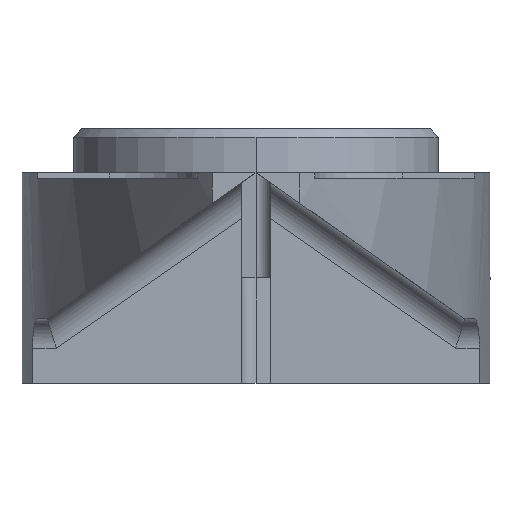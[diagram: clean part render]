
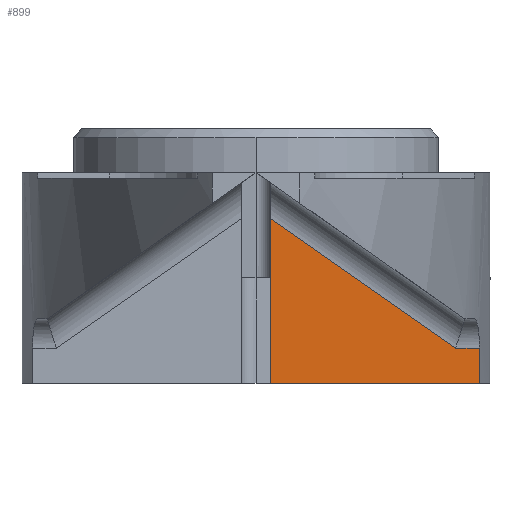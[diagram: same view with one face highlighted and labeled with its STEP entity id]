
A CAD part, left-side view. The second image highlights one B-rep face of the part: STEP entity #899.
In plain terms, the highlighted planar face has unit normal (-1, 0, 0).
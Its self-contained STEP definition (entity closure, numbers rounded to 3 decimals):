
#5 = VERTEX_POINT ( 'NONE', #2324 ) ;
#156 = EDGE_CURVE ( 'NONE', #486, #504, #825, .T. ) ;
#224 = CARTESIAN_POINT ( 'NONE',  ( -19., -7.638, 3.6 ) ) ;
#344 = EDGE_CURVE ( 'NONE', #486, #4200, #3777, .T. ) ;
#358 = DIRECTION ( 'NONE',  ( 0., 1., 0. ) ) ;
#439 = CARTESIAN_POINT ( 'NONE',  ( -19., -4.25, 0. ) ) ;
#440 = DIRECTION ( 'NONE',  ( 0., 0., -1. ) ) ;
#486 = VERTEX_POINT ( 'NONE', #3900 ) ;
#504 = VERTEX_POINT ( 'NONE', #3106 ) ;
#727 = LINE ( 'NONE', #4135, #3300 ) ;
#750 = CARTESIAN_POINT ( 'NONE',  ( -19., -0.5, 0. ) ) ;
#825 = LINE ( 'NONE', #2439, #2476 ) ;
#899 = ADVANCED_FACE ( 'NONE', ( #1158 ), #1737, .T. ) ;
#1002 = ORIENTED_EDGE ( 'NONE', *, *, #1947, .F. ) ;
#1158 = FACE_OUTER_BOUND ( 'NONE', #3311, .T. ) ;
#1228 = ORIENTED_EDGE ( 'NONE', *, *, #1324, .T. ) ;
#1324 = EDGE_CURVE ( 'NONE', #504, #1606, #727, .T. ) ;
#1381 = ORIENTED_EDGE ( 'NONE', *, *, #344, .F. ) ;
#1470 = DIRECTION ( 'NONE',  ( -1., 0., 0. ) ) ;
#1514 = DIRECTION ( 'NONE',  ( 0., -1., 0. ) ) ;
#1606 = VERTEX_POINT ( 'NONE', #3686 ) ;
#1694 = CARTESIAN_POINT ( 'NONE',  ( -19., -0.5, 5.629 ) ) ;
#1737 = PLANE ( 'NONE',  #3979 ) ;
#1833 = LINE ( 'NONE', #439, #3671 ) ;
#1947 = EDGE_CURVE ( 'NONE', #4200, #5, #1833, .T. ) ;
#2061 = VECTOR ( 'NONE', #440, 1000. ) ;
#2103 = EDGE_CURVE ( 'NONE', #5, #1606, #2129, .T. ) ;
#2129 = B_SPLINE_CURVE_WITH_KNOTS ( 'NONE', 1,
 ( #750, #1694 ),
 .UNSPECIFIED., .F., .F.,
 ( 2, 2 ),
 ( 0., 5.629 ),
 .UNSPECIFIED. ) ;
#2324 = CARTESIAN_POINT ( 'NONE',  ( -19., -0.5, 0. ) ) ;
#2439 = CARTESIAN_POINT ( 'NONE',  ( -19., -4.069, 1.2 ) ) ;
#2476 = VECTOR ( 'NONE', #2873, 1000. ) ;
#2598 = CARTESIAN_POINT ( 'NONE',  ( -19., -7.638, 0. ) ) ;
#2604 = ORIENTED_EDGE ( 'NONE', *, *, #2103, .F. ) ;
#2618 = DIRECTION ( 'NONE',  ( 0., 0.819, 0.574 ) ) ;
#2873 = DIRECTION ( 'NONE',  ( 0., 1., 0. ) ) ;
#3106 = CARTESIAN_POINT ( 'NONE',  ( -19., -6.825, 1.2 ) ) ;
#3300 = VECTOR ( 'NONE', #2618, 1000. ) ;
#3311 = EDGE_LOOP ( 'NONE', ( #1002, #1381, #4183, #1228, #2604 ) ) ;
#3671 = VECTOR ( 'NONE', #358, 1000. ) ;
#3686 = CARTESIAN_POINT ( 'NONE',  ( -19., -0.5, 5.629 ) ) ;
#3702 = CARTESIAN_POINT ( 'NONE',  ( -19., 0.214, -0.563 ) ) ;
#3777 = LINE ( 'NONE', #224, #2061 ) ;
#3900 = CARTESIAN_POINT ( 'NONE',  ( -19., -7.638, 1.2 ) ) ;
#3979 = AXIS2_PLACEMENT_3D ( 'NONE', #3702, #1470, #1514 ) ;
#4135 = CARTESIAN_POINT ( 'NONE',  ( -19., -4.745, 2.656 ) ) ;
#4183 = ORIENTED_EDGE ( 'NONE', *, *, #156, .T. ) ;
#4200 = VERTEX_POINT ( 'NONE', #2598 ) ;
